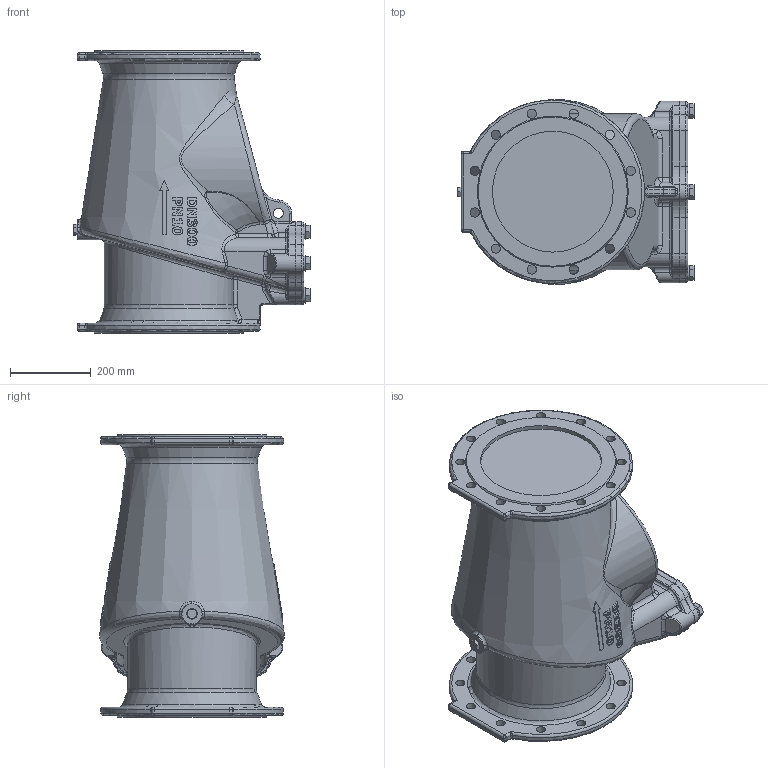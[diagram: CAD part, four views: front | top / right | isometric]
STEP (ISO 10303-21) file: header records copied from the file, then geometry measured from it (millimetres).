
FILE_DESCRIPTION(('STEP AP242'), '1');
FILE_NAME('VAR RETO-STOP 吾疣蝽 觌囡囗 DN 300 PN 10', '2026-06-28T08:25:22', (' '), (' '), 'C3D Converter', 'C3D Toolkit', '');
FILE_SCHEMA(('AP242_MANAGED_MODEL_BASED_3D_ENGINEERING_MIM_LF { 1 0 10303 442 1 1 4 }'));
Length unit declared in the file: millimetre
Products named in the file (1): Admi1EE092BCh8q2
Bounding box: 589.1 x 456.95 x 700 mm (x, y, z)
Volume: 90695703.1 mm3; surface area: 1647904.2 mm2
Topology: 1 solids, 6 shells, 785 faces, 1933 edges, 1153 vertices
Faces by surface type: plane 205, cylinder 161, extrusion 156, bspline 121, cone 66, torus 60, sphere 16
Full cylindrical faces by diameter (mm): 15.053 x1, 16 x1, 20 x1, 21.053 x4, 22 x1, 23 x28, 25 x1, 26 x1, 28.6 x4, 39 x4, 46.83 x1, 50 x1, 300 x2
Entity records: 60737 total; most frequent: CARTESIAN_POINT 38315, ORIENTED_EDGE 3644, DIRECTION 2717, EDGE_CURVE 1822, VERTEX_POINT 1152, AXIS2_PLACEMENT_3D 1009, EDGE_LOOP 948, B_SPLINE_CURVE_WITH_KNOTS 935
